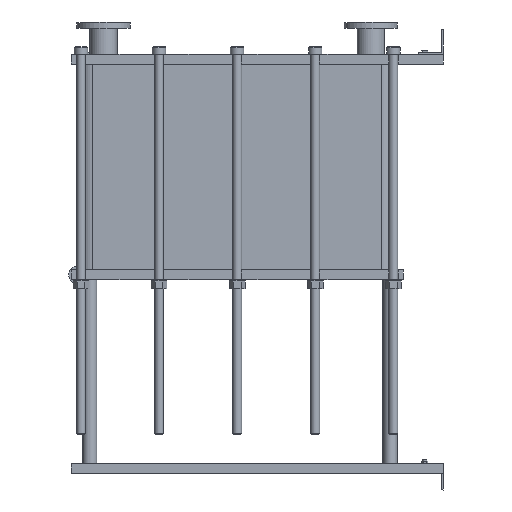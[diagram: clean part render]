
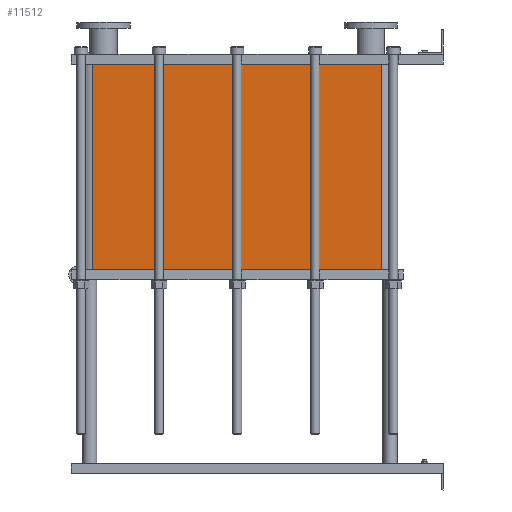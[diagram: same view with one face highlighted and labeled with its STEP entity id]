
A CAD part, left-side view. The second image highlights one B-rep face of the part: STEP entity #11512.
In plain terms, the highlighted planar face has unit normal (-1, 0, 0).
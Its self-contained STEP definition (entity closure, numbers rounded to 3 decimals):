
#1129=LINE('',#23232,#2102);
#1130=LINE('',#23236,#2103);
#1131=LINE('',#23238,#2104);
#1132=LINE('',#23239,#2105);
#2102=VECTOR('',#15887,10.);
#2103=VECTOR('',#15892,10.);
#2104=VECTOR('',#15893,10.);
#2105=VECTOR('',#15894,10.);
#3267=FACE_OUTER_BOUND('',#4093,.T.);
#4093=EDGE_LOOP('',(#10103,#10104,#10105,#10106));
#5642=VERTEX_POINT('',#23229);
#5643=VERTEX_POINT('',#23231);
#5644=VERTEX_POINT('',#23235);
#5645=VERTEX_POINT('',#23237);
#7159=EDGE_CURVE('',#5643,#5642,#1129,.T.);
#7161=EDGE_CURVE('',#5642,#5644,#1130,.T.);
#7162=EDGE_CURVE('',#5645,#5644,#1131,.T.);
#7163=EDGE_CURVE('',#5645,#5643,#1132,.T.);
#10103=ORIENTED_EDGE('',*,*,#7161,.T.);
#10104=ORIENTED_EDGE('',*,*,#7162,.F.);
#10105=ORIENTED_EDGE('',*,*,#7163,.T.);
#10106=ORIENTED_EDGE('',*,*,#7159,.T.);
#10857=PLANE('',#12751);
#11512=ADVANCED_FACE('',(#3267),#10857,.T.);
#12751=AXIS2_PLACEMENT_3D('',#23234,#15890,#15891);
#15887=DIRECTION('',(0.,0.,-1.));
#15890=DIRECTION('center_axis',(-1.,0.,0.));
#15891=DIRECTION('ref_axis',(0.,1.,0.));
#15892=DIRECTION('',(0.,-1.,0.));
#15893=DIRECTION('',(0.,0.,-1.));
#15894=DIRECTION('',(0.,1.,0.));
#23229=CARTESIAN_POINT('',(-200.,1414.,-828.));
#23231=CARTESIAN_POINT('',(-200.,1414.,0.));
#23232=CARTESIAN_POINT('',(-200.,1414.,0.));
#23234=CARTESIAN_POINT('Origin',(-200.,248.,0.));
#23235=CARTESIAN_POINT('',(-200.,248.,-828.));
#23236=CARTESIAN_POINT('',(-200.,539.5,-828.));
#23237=CARTESIAN_POINT('',(-200.,248.,0.));
#23238=CARTESIAN_POINT('',(-200.,248.,0.));
#23239=CARTESIAN_POINT('',(-200.,248.,0.));
